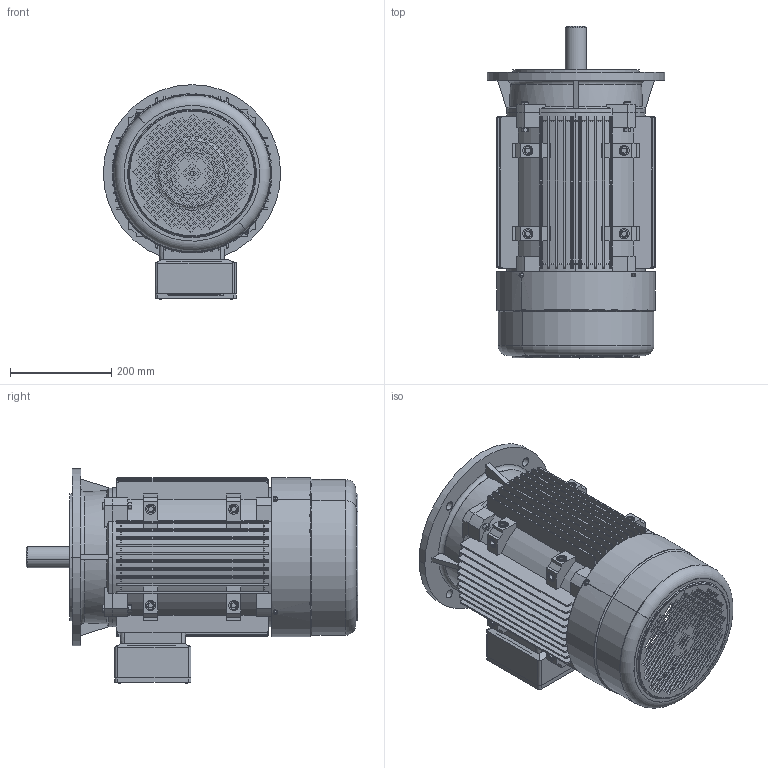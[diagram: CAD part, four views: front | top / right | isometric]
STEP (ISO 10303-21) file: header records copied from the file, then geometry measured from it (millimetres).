
FILE_DESCRIPTION (( 'STEP AP203' ), '1' );
FILE_NAME ('160L-B5.STEP', '2023-02-21T10:20:21', ( '' ), ( '' ), 'SwSTEP 2.0', 'SolidWorks 2018', '' );
FILE_SCHEMA (( 'CONFIG_CONTROL_DESIGN' ));
Length unit declared in the file: millimetre
Products named in the file (11): 160諉盄碟釱; 160粣芛; 160L-B5; 112-蹟隊; 160L; 160 蹟譫; 160瑞欶; 160諉盄碟裔; 160 蹟邡; 160 蚐猾; 160B5裔
Assembly tree (21 placements, depth 2):
  160L-B5
    160L
    160B5裔
    160 蹟邡  x4
    160 蹟譫  x4
    160粣芛
    160 蚐猾
    160諉盄碟釱
    160諉盄碟裔
    112-蹟隊  x6
    160瑞欶
Bounding box: 350 x 655 x 423.73 mm (x, y, z)
Volume: 6171813.5 mm3; surface area: 2212996.2 mm2
Topology: 21 solids, 21 shells, 2804 faces, 7931 edges, 5238 vertices
Faces by surface type: plane 2143, cylinder 508, cone 105, torus 36, sphere 12
Entity records: 87543 total; most frequent: CARTESIAN_POINT 17008, ORIENTED_EDGE 14798, DIRECTION 13148, EDGE_CURVE 7399, LINE 6036, VECTOR 6036, VERTEX_POINT 4906, AXIS2_PLACEMENT_3D 3556
